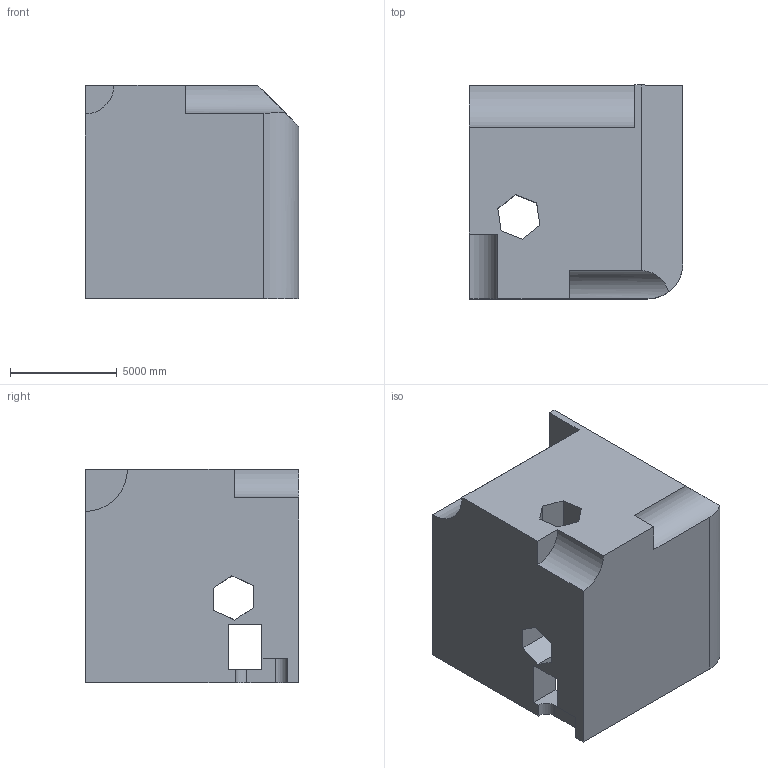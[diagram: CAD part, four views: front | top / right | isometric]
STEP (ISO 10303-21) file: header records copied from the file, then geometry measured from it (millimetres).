
FILE_DESCRIPTION (( 'STEP AP203' ), '1' );
FILE_NAME ('1942.STEP', '2022-08-26T13:41:33', ( 'user' ), ( '' ), 'SwSTEP 2.0', 'SolidWorks 2021', '' );
FILE_SCHEMA (( 'CONFIG_CONTROL_DESIGN' ));
Length unit declared in the file: centimetre
Products named in the file (1): 1942
Bounding box: 10000 x 10000 x 10000 mm (x, y, z)
Volume: 847763045625.2 mm3; surface area: 731792333.8 mm2
Topology: 1 solids, 1 shells, 45 faces, 144 edges, 96 vertices
Faces by surface type: plane 37, cylinder 8
Entity records: 1690 total; most frequent: CARTESIAN_POINT 315, ORIENTED_EDGE 288, DIRECTION 247, EDGE_CURVE 144, LINE 127, VECTOR 127, VERTEX_POINT 96, AXIS2_PLACEMENT_3D 60
